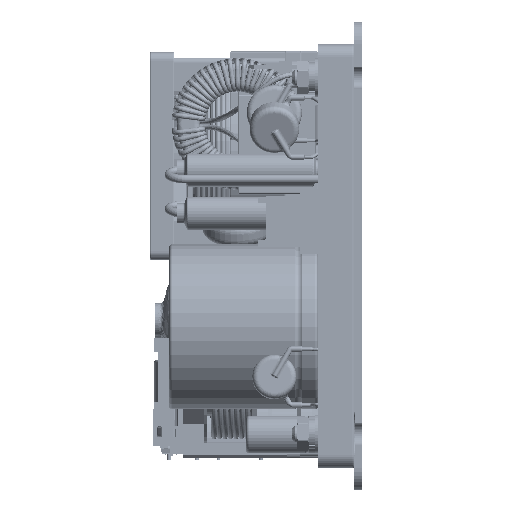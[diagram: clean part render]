
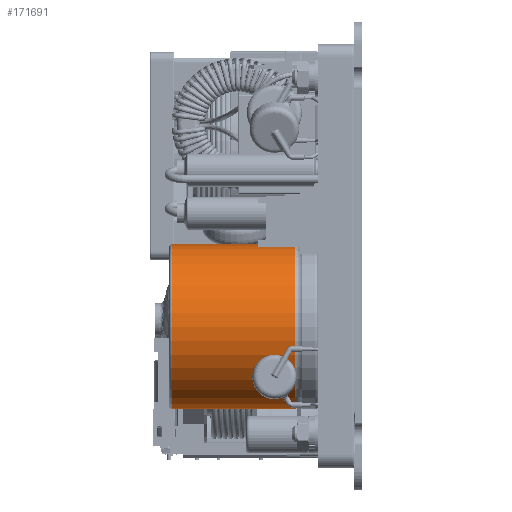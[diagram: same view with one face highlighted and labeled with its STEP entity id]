
A CAD part, left-side view. The second image highlights one B-rep face of the part: STEP entity #171691.
In plain terms, the highlighted cylindrical face has radius 15 mm (diameter 30 mm), a partial arc.
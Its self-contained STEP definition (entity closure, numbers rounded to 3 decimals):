
#8267 = CARTESIAN_POINT ( 'NONE',  ( 0., 42.557, 0. ) ) ;
#12489 = LINE ( 'NONE', #43709, #305155 ) ;
#43709 = CARTESIAN_POINT ( 'NONE',  ( 0., 42.557, 15. ) ) ;
#65144 = EDGE_LOOP ( 'NONE', ( #71838, #232018, #314090, #228834 ) ) ;
#71838 = ORIENTED_EDGE ( 'NONE', *, *, #165391, .F. ) ;
#74076 = EDGE_CURVE ( 'NONE', #124702, #356244, #342319, .T. ) ;
#77733 = AXIS2_PLACEMENT_3D ( 'NONE', #138316, #250656, #224827 ) ;
#88876 = VECTOR ( 'NONE', #325256, 1000. ) ;
#93021 = DIRECTION ( 'NONE',  ( 0., 0., 1. ) ) ;
#98778 = CARTESIAN_POINT ( 'NONE',  ( 0., 4.214, 0. ) ) ;
#102390 = DIRECTION ( 'NONE',  ( 0., 1., 0. ) ) ;
#102948 = CARTESIAN_POINT ( 'NONE',  ( 0., 26.5, -15. ) ) ;
#124702 = VERTEX_POINT ( 'NONE', #102948 ) ;
#138316 = CARTESIAN_POINT ( 'NONE',  ( 0., 26.5, 0. ) ) ;
#145976 = EDGE_CURVE ( 'NONE', #348469, #356244, #12489, .T. ) ;
#151841 = DIRECTION ( 'NONE',  ( 0., 1., 0. ) ) ;
#165391 = EDGE_CURVE ( 'NONE', #343390, #124702, #323421, .T. ) ;
#171691 = ADVANCED_FACE ( 'NONE', ( #348989 ), #208891, .T. ) ;
#174197 = AXIS2_PLACEMENT_3D ( 'NONE', #8267, #151841, #93021 ) ;
#206746 = AXIS2_PLACEMENT_3D ( 'NONE', #98778, #102390, #292137 ) ;
#208891 = CYLINDRICAL_SURFACE ( 'NONE', #174197, 15. ) ;
#224827 = DIRECTION ( 'NONE',  ( 0., 0., 1. ) ) ;
#228834 = ORIENTED_EDGE ( 'NONE', *, *, #74076, .F. ) ;
#232018 = ORIENTED_EDGE ( 'NONE', *, *, #260295, .T. ) ;
#241980 = CIRCLE ( 'NONE', #206746, 15. ) ;
#250656 = DIRECTION ( 'NONE',  ( 0., 1., 0. ) ) ;
#250987 = CARTESIAN_POINT ( 'NONE',  ( 0., 4.214, 15. ) ) ;
#260295 = EDGE_CURVE ( 'NONE', #343390, #348469, #241980, .T. ) ;
#275101 = CARTESIAN_POINT ( 'NONE',  ( 0., 4.214, -15. ) ) ;
#292137 = DIRECTION ( 'NONE',  ( 0., 0., 1. ) ) ;
#303005 = CARTESIAN_POINT ( 'NONE',  ( 0., 26.5, 15. ) ) ;
#305155 = VECTOR ( 'NONE', #325554, 1000. ) ;
#314090 = ORIENTED_EDGE ( 'NONE', *, *, #145976, .T. ) ;
#323421 = LINE ( 'NONE', #352929, #88876 ) ;
#325256 = DIRECTION ( 'NONE',  ( 0., 1., 0. ) ) ;
#325554 = DIRECTION ( 'NONE',  ( 0., 1., 0. ) ) ;
#342319 = CIRCLE ( 'NONE', #77733, 15. ) ;
#343390 = VERTEX_POINT ( 'NONE', #275101 ) ;
#348469 = VERTEX_POINT ( 'NONE', #250987 ) ;
#348989 = FACE_OUTER_BOUND ( 'NONE', #65144, .T. ) ;
#352929 = CARTESIAN_POINT ( 'NONE',  ( 0., 42.557, -15. ) ) ;
#356244 = VERTEX_POINT ( 'NONE', #303005 ) ;
